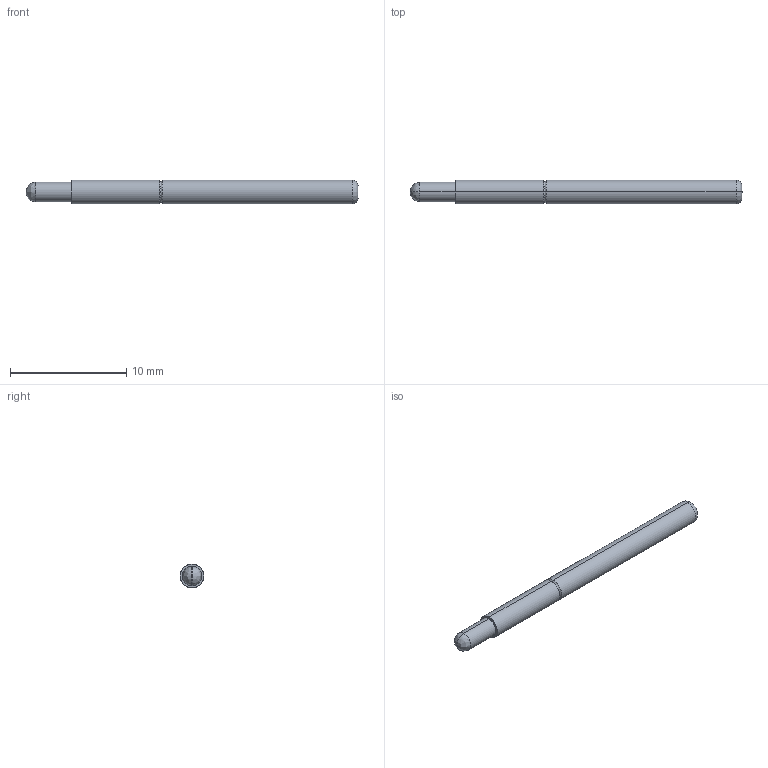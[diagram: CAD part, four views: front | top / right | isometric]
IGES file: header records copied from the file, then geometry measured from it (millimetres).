
Start section: SolidWorks IGES file using analytic representation for surfaces
Global section: file name: O:\PYLON\IGES FILES\P2665\P2665G-1R1S REC'D.IGS; native system: SolidWorks 2015; preprocessor: SolidWorks 2015; author: kgolden; date: 171019.133123; units: inch
Bounding box: 28.52 x 2.03 x 2.03 mm (x, y, z)
Surface area: 190.4 mm2 (no closed solid volume)
Topology: 0 solids, 0 shells, 19 faces, 136 edges, 136 vertices
Faces by surface type: bspline 11, revolution 8
